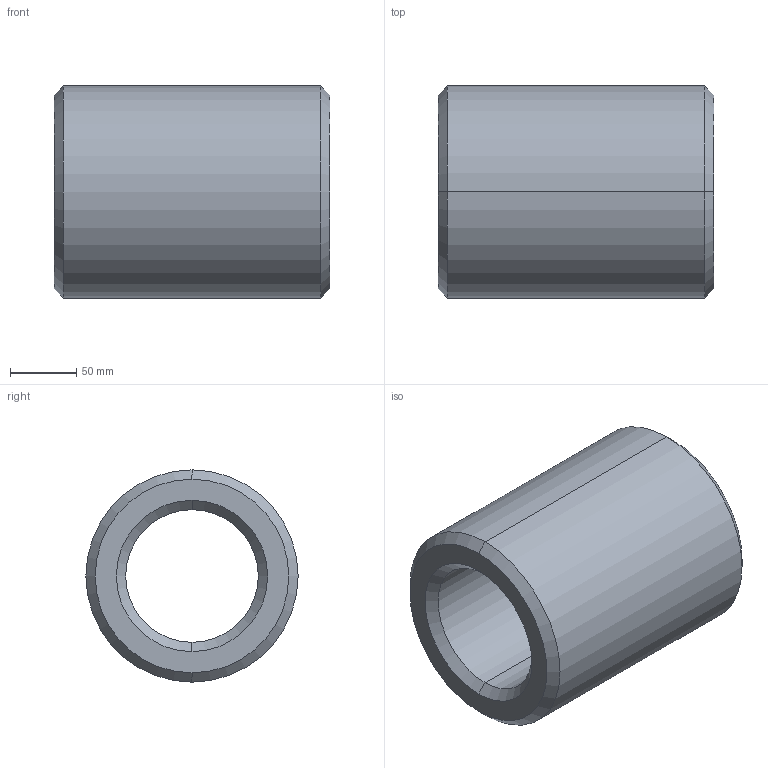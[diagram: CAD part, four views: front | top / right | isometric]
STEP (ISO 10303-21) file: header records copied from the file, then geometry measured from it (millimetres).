
FILE_DESCRIPTION (( 'STEP AP203' ), '1' );
FILE_NAME ('Muffe M100.STEP', '2018-02-22T09:30:20', ( 'install' ), ( 'Hewlett-Packard Company' ), 'SwSTEP 2.0', 'SolidWorks 2017', '' );
FILE_SCHEMA (( 'CONFIG_CONTROL_DESIGN' ));
Length unit declared in the file: millimetre
Products named in the file (1): Muffe M100
Bounding box: 208 x 160 x 160 mm (x, y, z)
Volume: 2508436.1 mm3; surface area: 187703.1 mm2
Topology: 1 solids, 1 shells, 14 faces, 28 edges, 16 vertices
Faces by surface type: cone 8, cylinder 4, plane 2
Entity records: 445 total; most frequent: DIRECTION 74, CARTESIAN_POINT 59, ORIENTED_EDGE 56, AXIS2_PLACEMENT_3D 31, EDGE_CURVE 28, EDGE_LOOP 16, VERTEX_POINT 16, CIRCLE 16
